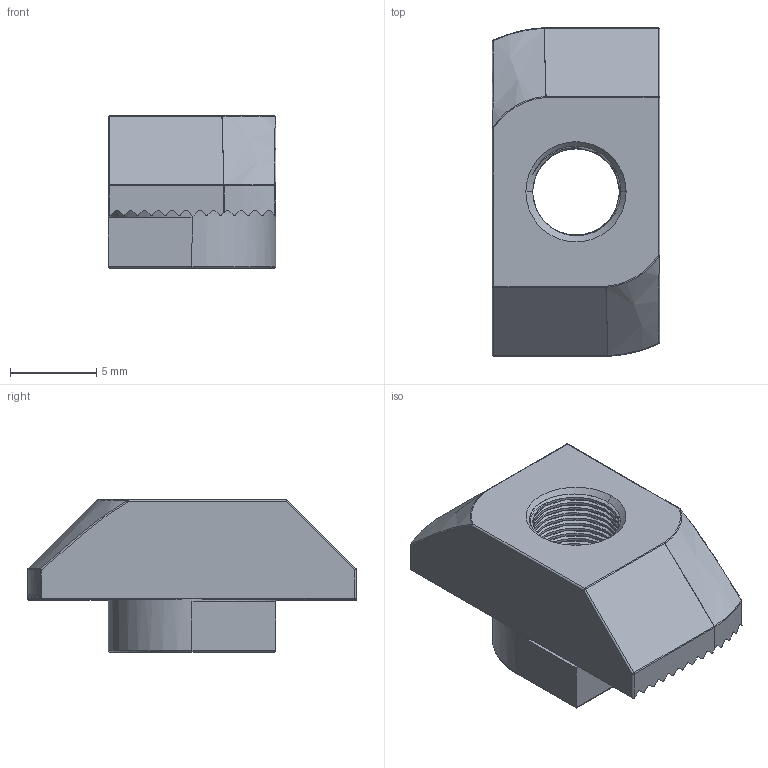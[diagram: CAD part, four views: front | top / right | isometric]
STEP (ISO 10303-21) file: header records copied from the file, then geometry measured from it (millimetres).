
FILE_DESCRIPTION (( 'STEP AP203' ), '1' );
FILE_NAME ('t-nut 10 slot M6.STEP', '2012-05-29T19:41:38', ( '' ), ( '' ), 'SwSTEP 2.0', 'SolidWorks 2010', '' );
FILE_SCHEMA (( 'CONFIG_CONTROL_DESIGN' ));
Length unit declared in the file: millimetre
Products named in the file (1): t-nut 10 slot M6
Bounding box: 9.7 x 19 x 8.8 mm (x, y, z)
Volume: 948.5 mm3; surface area: 929.8 mm2
Topology: 1 solids, 1 shells, 219 faces, 610 edges, 384 vertices
Faces by surface type: cylinder 114, plane 64, bspline 25, cone 7, torus 6, sphere 3
Entity records: 12297 total; most frequent: CARTESIAN_POINT 7337, ORIENTED_EDGE 1202, DIRECTION 833, EDGE_CURVE 601, VERTEX_POINT 384, AXIS2_PLACEMENT_3D 295, VECTOR 243, LINE 243
